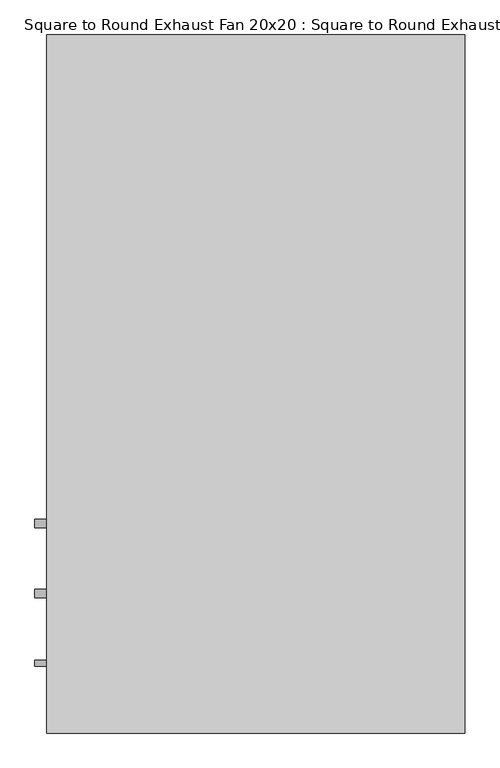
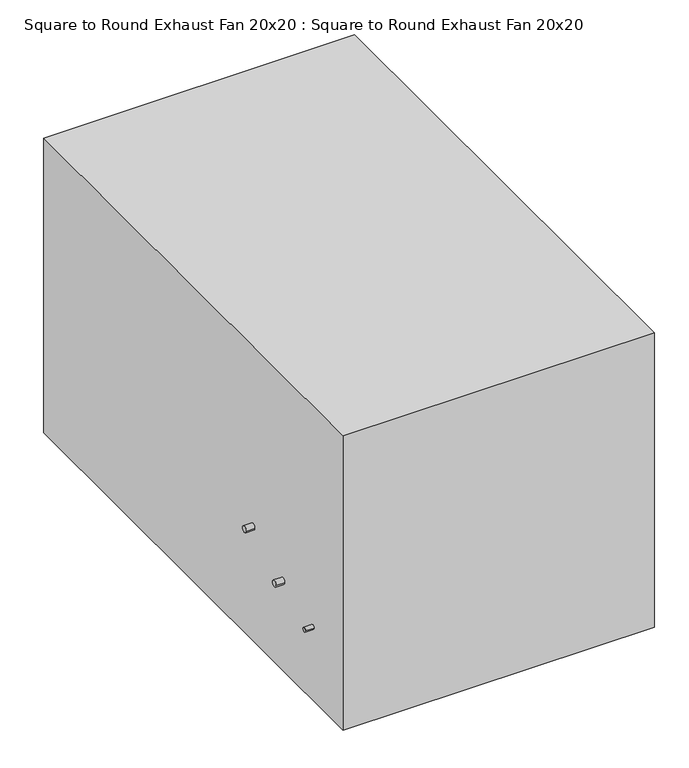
"""IFC4 building model written with IfcOpenShell, lengths in millimetres: proxy geometry, Square to Round Exhaust Fan 20x20 : Square to Round Exhaust Fan 20x20."""

from ifc_helpers import new_model, si_unit, point, frame, frame_2d, origin, origin_with_axes, place, context, project, spatial, polyline, circle_curve, trimmed, segment, composite_curve, outline, extrude, source, transform, mapped, element, save


def square_to_round_exhaust_fan_20x20_square_to_round_exhaust_86a15bb8(model_context):
    return source(origin(), model_context, "Body", "SweptSolid", [
        extrude(outline(composite_curve([segment(trimmed(circle_curve(frame_2d((-304.8, 355.6)), 9.525), [point((-314.325, 355.6))], [point((-295.275, 355.6))], False, "CARTESIAN"), True, "CONTINUOUS"), segment(trimmed(circle_curve(frame_2d((-304.8, 355.6)), 9.525), [point((-295.275, 355.6))], [point((-314.325, 355.6))], False, "CARTESIAN"), True, "CONTINUOUS")], self_intersect=False)), frame((-482.6, 0.0, 0.0), z_axis=(1.0, 0.0, 0.0), x_axis=(0.0, 1.0, 0.0)), (0.0, 0.0, 1.0), 25.4),
        extrude(outline(composite_curve([segment(trimmed(circle_curve(frame_2d((-457.2, 279.4)), 9.525), [point((-466.725, 279.4))], [point((-447.675, 279.4))], False, "CARTESIAN"), True, "CONTINUOUS"), segment(trimmed(circle_curve(frame_2d((-457.2, 279.4)), 9.525), [point((-447.675, 279.4))], [point((-466.725, 279.4))], False, "CARTESIAN"), True, "CONTINUOUS")], self_intersect=False)), frame((-482.6, 0.0, 0.0), z_axis=(1.0, 0.0, 0.0), x_axis=(0.0, 1.0, 0.0)), (0.0, 0.0, 1.0), 25.4),
        extrude(outline(composite_curve([segment(trimmed(circle_curve(frame_2d((-609.6, 228.6)), 6.35), [point((-615.95, 228.6))], [point((-603.25, 228.6))], False, "CARTESIAN"), True, "CONTINUOUS"), segment(trimmed(circle_curve(frame_2d((-609.6, 228.6)), 6.35), [point((-603.25, 228.6))], [point((-615.95, 228.6))], False, "CARTESIAN"), True, "CONTINUOUS")], self_intersect=False)), frame((-482.6, 0.0, 0.0), z_axis=(1.0, 0.0, 0.0), x_axis=(0.0, 1.0, 0.0)), (0.0, 0.0, 1.0), 25.4),
        extrude(outline(polyline([(457.2, 762.0), (457.2, -762.0), (-457.2, -762.0), (-457.2, 762.0), (457.2, 762.0)])), origin_with_axes(), (0.0, 0.0, 1.0), 914.4),
    ])


if __name__ == "__main__":
    model = new_model("IFC4")
    model_context = context("Model", 3, world=origin())
    ifc_project = project(units=[si_unit("LENGTHUNIT", "METRE", prefix="MILLI")], contexts=[model_context])
    site = spatial("IfcSite", under=ifc_project)
    building = spatial("IfcBuilding", under=site)
    placement = place(None, origin())
    square_to_round_exhaust_fan_20x20_square_to_round_exhaust_shape = square_to_round_exhaust_fan_20x20_square_to_round_exhaust_86a15bb8(model_context)
    element("IfcBuildingElementProxy", 1, Name="Square to Round Exhaust Fan 20x20 : Square to Round Exhaust Fan 20x20", ObjectType="Square to Round Exhaust Fan 20x20 : Square to Round Exhaust Fan 20x20", at=placement, inside=building, context=model_context, shape_type="MappedRepresentation", body=[
        mapped(square_to_round_exhaust_fan_20x20_square_to_round_exhaust_shape, transform((0.0, 0.0, 0.0), x_axis=(1.0, 0.0, 0.0), y_axis=(0.0, 1.0, 0.0), z_axis=(0.0, 0.0, 1.0))),
    ])
    save(model, "model.ifc")
